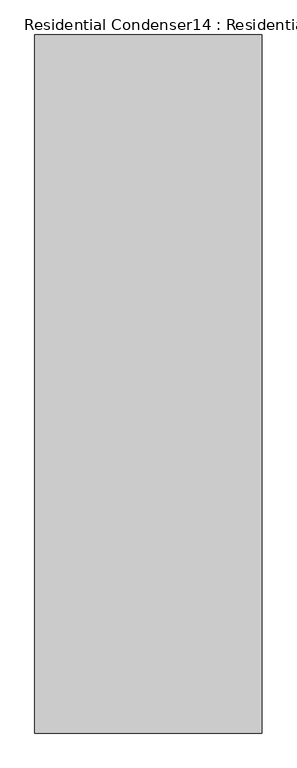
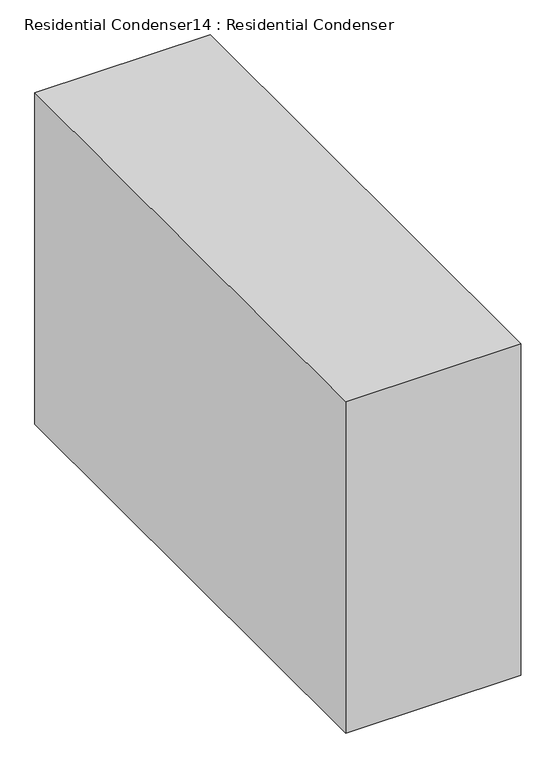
"""IFC4 building model written with IfcOpenShell, lengths in millimetres: proxy geometry, Residential Condenser14 : Residential Condenser."""

from ifc_helpers import new_model, si_unit, frame, origin, place, context, project, spatial, polyline, outline, extrude, source, transform, mapped, element, save


def residential_condenser14_residential_condenser_451ab73e(model_context):
    return source(origin(), model_context, "Body", "SweptSolid", [
        extrude(outline(polyline([(6554.6645991, 18465.0), (6554.6645991, 16929.8875971), (6054.6645991, 16929.8875971), (6054.6645991, 18465.0), (6554.6645991, 18465.0)])), frame((0.0, 0.0, 54700.0), z_axis=(0.0, 0.0, 1.0), x_axis=(1.0, 0.0, 0.0)), (0.0, 0.0, 1.0), 1000.0),
    ])


if __name__ == "__main__":
    model = new_model("IFC4")
    model_context = context("Model", 3, world=origin())
    ifc_project = project(units=[si_unit("LENGTHUNIT", "METRE", prefix="MILLI")], contexts=[model_context])
    site = spatial("IfcSite", under=ifc_project)
    building = spatial("IfcBuilding", under=site)
    placement = place(None, origin())
    residential_condenser14_residential_condenser_shape = residential_condenser14_residential_condenser_451ab73e(model_context)
    element("IfcBuildingElementProxy", 1, Name="Residential Condenser14 : Residential Condenser", ObjectType="Residential Condenser14 : Residential Condenser", at=placement, inside=building, context=model_context, shape_type="MappedRepresentation", body=[
        mapped(residential_condenser14_residential_condenser_shape, transform((0.0, 0.0, 0.0), x_axis=(1.0, 0.0, 0.0), y_axis=(0.0, 1.0, 0.0), z_axis=(0.0, 0.0, 1.0))),
    ])
    save(model, "model.ifc")
